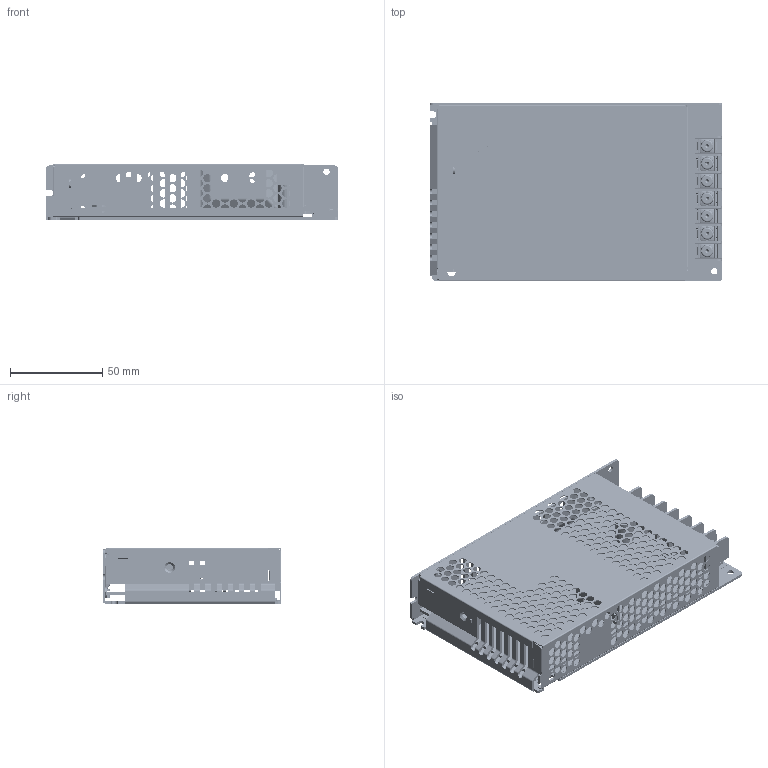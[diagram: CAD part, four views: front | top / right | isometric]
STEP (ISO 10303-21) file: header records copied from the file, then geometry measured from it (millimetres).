
FILE_DESCRIPTION((''),'2;1');
FILE_NAME('CASE_ASSY_ASM','2021-04-08T',('EUNICE.HUANG'),(''),'PRO/ENGINEER BY PARAMETRIC TECHNOLOGY CORPORATION, 2015240','PRO/ENGINEER BY PARAMETRIC TECHNOLOGY CORPORATION, 2015240','');
FILE_SCHEMA(('AUTOMOTIVE_DESIGN { 1 0 10303 214 1 1 1 1 }'));
Products named in the file (18): P150W_CHASSIS; CHASSIS-STANDOFF; 150W_COVER; INSULATOR; 150W2BA-R2; YK1001A1-441_07_27_1; YK2002A1-441_07_16_1; YK5001A1-441_07_1_1; YK5002A1-441_07_2_1; YK0002A1-441_07_ASM_2_ASM_1_ASM; JIAOZI_32_1; YK4410703000G_ASM_42_ASM_1_ASM; YK441-7_ASM_1_ASM; YK44107032D0G_FINA_ASM; CLIP; HSK; 150W_COVER1; CASE_ASSY_ASM
Assembly tree (28 placements, depth 6):
  CASE_ASSY_ASM
    P150W_CHASSIS
    CHASSIS-STANDOFF
    150W_COVER
    INSULATOR
    150W2BA-R2
    YK44107032D0G_FINA_ASM
      YK441-7_ASM_1_ASM
        YK4410703000G_ASM_42_ASM_1_ASM
          YK1001A1-441_07_27_1
          YK2002A1-441_07_16_1  x6
          YK0002A1-441_07_ASM_2_ASM_1_ASM  x7
            YK5001A1-441_07_1_1
            YK5002A1-441_07_2_1
          JIAOZI_32_1
    CLIP
    HSK
    150W_COVER1
Bounding box: 159 x 97 x 30 mm (x, y, z)
Volume: 81855.9 mm3; surface area: 177181.7 mm2
Topology: 30 solids, 30 shells, 4704 faces, 13716 edges, 9040 vertices
Faces by surface type: cylinder 2188, plane 2040, bspline 340, torus 84, cone 48, sphere 4
Entity records: 115082 total; most frequent: CARTESIAN_POINT 26044, DIRECTION 18454, ORIENTED_EDGE 17724, EDGE_CURVE 8862, AXIS2_PLACEMENT_3D 6809, VERTEX_POINT 5745, VECTOR 4836, LINE 4836
